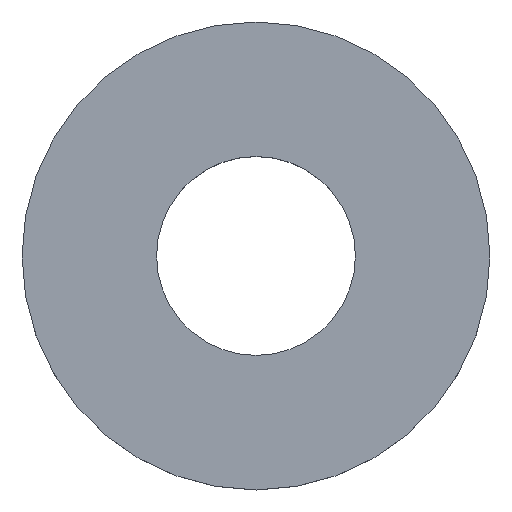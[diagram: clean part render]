
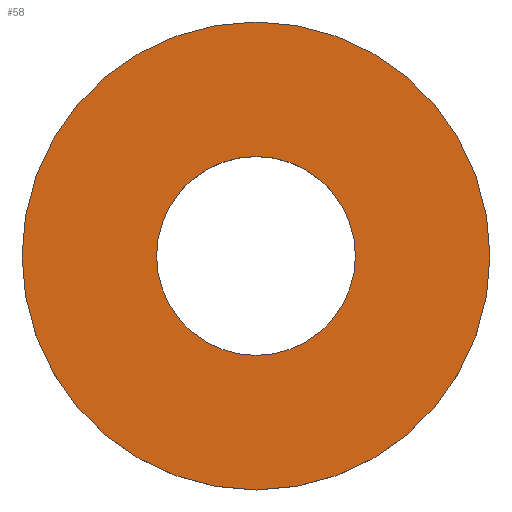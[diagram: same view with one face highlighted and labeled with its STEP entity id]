
A CAD part, top view. The second image highlights one B-rep face of the part: STEP entity #58.
In plain terms, the highlighted planar face has unit normal (0, 0, 1).
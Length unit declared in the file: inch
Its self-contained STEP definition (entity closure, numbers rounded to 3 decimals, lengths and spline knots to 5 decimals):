
#16=PLANE('',#68);
#20=FACE_BOUND('',#32,.T.);
#24=FACE_OUTER_BOUND('',#31,.T.);
#31=EDGE_LOOP('',(#51));
#32=EDGE_LOOP('',(#52));
#33=CIRCLE('',#62,0.53125);
#35=CIRCLE('',#65,1.25);
#37=VERTEX_POINT('',#89);
#39=VERTEX_POINT('',#94);
#41=EDGE_CURVE('',#37,#37,#33,.T.);
#43=EDGE_CURVE('',#39,#39,#35,.T.);
#51=ORIENTED_EDGE('',*,*,#43,.T.);
#52=ORIENTED_EDGE('',*,*,#41,.T.);
#58=ADVANCED_FACE('',(#24,#20),#16,.T.);
#62=AXIS2_PLACEMENT_3D('',#90,#73,#74);
#65=AXIS2_PLACEMENT_3D('',#95,#79,#80);
#68=AXIS2_PLACEMENT_3D('',#99,#85,#86);
#73=DIRECTION('center_axis',(0.,0.,-1.));
#74=DIRECTION('ref_axis',(-1.,0.,0.));
#79=DIRECTION('center_axis',(0.,0.,1.));
#80=DIRECTION('ref_axis',(-1.,0.,0.));
#85=DIRECTION('center_axis',(0.,0.,1.));
#86=DIRECTION('ref_axis',(1.,0.,0.));
#89=CARTESIAN_POINT('',(0.53125,0.,0.25));
#90=CARTESIAN_POINT('Origin',(0.,0.,0.25));
#94=CARTESIAN_POINT('',(1.25,0.,0.25));
#95=CARTESIAN_POINT('Origin',(0.,0.,0.25));
#99=CARTESIAN_POINT('Origin',(0.,0.,
0.25));
